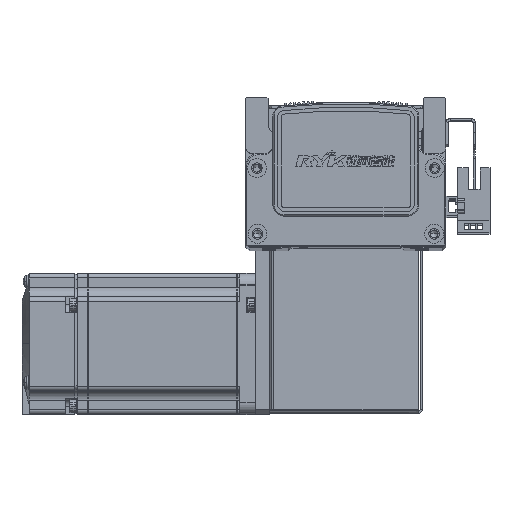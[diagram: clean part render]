
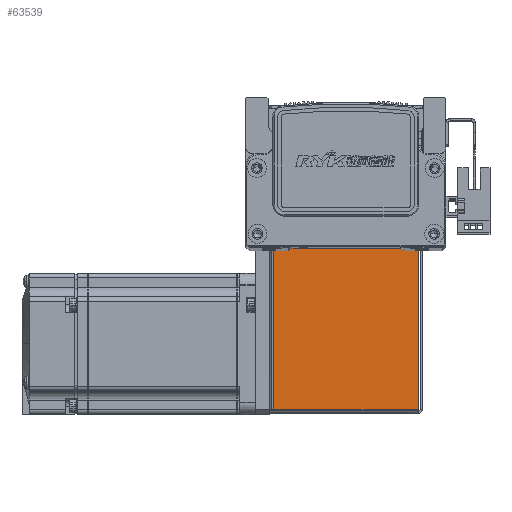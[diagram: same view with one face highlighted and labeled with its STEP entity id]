
A CAD part, top view. The second image highlights one B-rep face of the part: STEP entity #63539.
In plain terms, the highlighted planar face has unit normal (0, 0, 1) as drawn and (0, 0, -1) by its records, which use the part's own axes.
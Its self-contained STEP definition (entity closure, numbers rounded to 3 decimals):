
#146 = LINE ( 'NONE', #4600, #198 ) ;
#184 = LINE ( 'NONE', #4615, #226 ) ;
#198 = VECTOR ( 'NONE', #4619, 1000. ) ;
#226 = VECTOR ( 'NONE', #4629, 1000. ) ;
#863 = EDGE_LOOP ( 'NONE', ( #27558, #27640, #27638, #27564 ) ) ;
#4600 = CARTESIAN_POINT ( 'NONE',  ( -30.793, 0., -35. ) ) ;
#4615 = CARTESIAN_POINT ( 'NONE',  ( 30.763, 72.5, -35. ) ) ;
#4619 = DIRECTION ( 'NONE',  ( 0., 1., 0. ) ) ;
#4629 = DIRECTION ( 'NONE',  ( 0., -1., 0. ) ) ;
#4631 = DIRECTION ( 'NONE',  ( 1., 0., 0. ) ) ;
#4660 = CARTESIAN_POINT ( 'NONE',  ( 0., 72.5, -35. ) ) ;
#4669 = DIRECTION ( 'NONE',  ( 1., 0., 0. ) ) ;
#4705 = CARTESIAN_POINT ( 'NONE',  ( 32.5, 0.737, -35. ) ) ;
#17012 = CARTESIAN_POINT ( 'NONE',  ( 0., 0., -35. ) ) ;
#17024 = DIRECTION ( 'NONE',  ( 0., 0., 1. ) ) ;
#17030 = PLANE ( 'NONE',  #54152 ) ;
#17036 = DIRECTION ( 'NONE',  ( 0., -1., 0. ) ) ;
#27558 = ORIENTED_EDGE ( 'NONE', *, *, #71943, .T. ) ;
#27564 = ORIENTED_EDGE ( 'NONE', *, *, #71957, .T. ) ;
#27638 = ORIENTED_EDGE ( 'NONE', *, *, #71936, .T. ) ;
#27640 = ORIENTED_EDGE ( 'NONE', *, *, #71968, .F. ) ;
#28861 = VERTEX_POINT ( 'NONE', #74980 ) ;
#28864 = VERTEX_POINT ( 'NONE', #74999 ) ;
#28869 = VERTEX_POINT ( 'NONE', #75033 ) ;
#28949 = VERTEX_POINT ( 'NONE', #75098 ) ;
#48352 = FACE_OUTER_BOUND ( 'NONE', #863, .T. ) ;
#54152 = AXIS2_PLACEMENT_3D ( 'NONE', #17012, #17024, #17036 ) ;
#63539 = ADVANCED_FACE ( 'NONE', ( #48352 ), #17030, .F. ) ;
#71936 = EDGE_CURVE ( 'NONE', #28861, #28864, #146, .T. ) ;
#71943 = EDGE_CURVE ( 'NONE', #28869, #28949, #184, .T. ) ;
#71957 = EDGE_CURVE ( 'NONE', #28864, #28869, #76364, .T. ) ;
#71968 = EDGE_CURVE ( 'NONE', #28861, #28949, #76363, .T. ) ;
#74980 = CARTESIAN_POINT ( 'NONE',  ( -30.793, 0.737, -35. ) ) ;
#74999 = CARTESIAN_POINT ( 'NONE',  ( -30.793, 72.5, -35. ) ) ;
#75033 = CARTESIAN_POINT ( 'NONE',  ( 30.763, 72.5, -35. ) ) ;
#75098 = CARTESIAN_POINT ( 'NONE',  ( 30.763, 0.737, -35. ) ) ;
#76348 = VECTOR ( 'NONE', #4631, 1000. ) ;
#76363 = LINE ( 'NONE', #4705, #76376 ) ;
#76364 = LINE ( 'NONE', #4660, #76348 ) ;
#76376 = VECTOR ( 'NONE', #4669, 1000. ) ;
